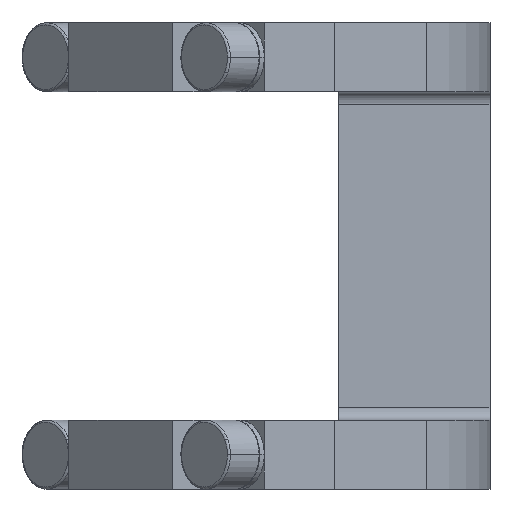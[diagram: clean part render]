
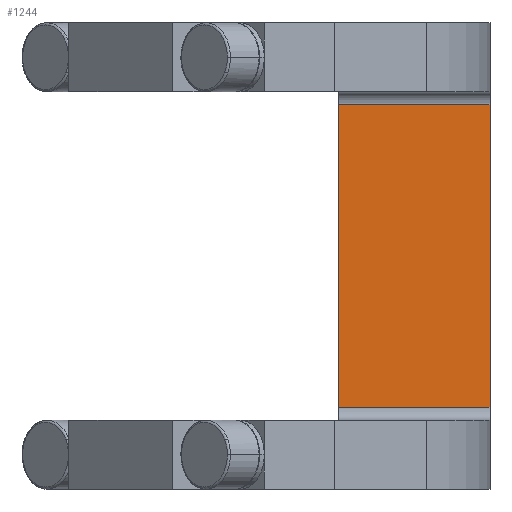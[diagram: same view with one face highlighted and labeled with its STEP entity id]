
A CAD part, front view. The second image highlights one B-rep face of the part: STEP entity #1244.
In plain terms, the highlighted planar face has unit normal (0, -1, 0).
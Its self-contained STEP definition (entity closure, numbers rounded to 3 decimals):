
#431=CARTESIAN_POINT('Vertex',(60.,115.,35.)) ;
#434=CARTESIAN_POINT('Line Origine',(60.,115.,0.)) ;
#438=CARTESIAN_POINT('Vertex',(60.,115.,-35.)) ;
#710=CARTESIAN_POINT('Vertex',(25.,115.,-35.)) ;
#713=CARTESIAN_POINT('Line Origine',(25.,115.,0.)) ;
#717=CARTESIAN_POINT('Vertex',(25.,115.,35.)) ;
#918=CARTESIAN_POINT('Line Origine',(5.,115.,35.)) ;
#1221=CARTESIAN_POINT('Line Origine',(5.,115.,-35.)) ;
#1233=CARTESIAN_POINT('Axis2P3D Location',(60.,115.,35.)) ;
#435=DIRECTION('Vector Direction',(0.,0.,-1.)) ;
#714=DIRECTION('Vector Direction',(0.,0.,-1.)) ;
#919=DIRECTION('Vector Direction',(1.,0.,0.)) ;
#1222=DIRECTION('Vector Direction',(1.,0.,0.)) ;
#1234=DIRECTION('Axis2P3D Direction',(0.,1.,0.)) ;
#1235=DIRECTION('Axis2P3D XDirection',(0.,0.,-1.)) ;
#1236=AXIS2_PLACEMENT_3D('Plane Axis2P3D',#1233,#1234,#1235) ;
#1239=ORIENTED_EDGE('',*,*,#719,.T.) ;
#1240=ORIENTED_EDGE('',*,*,#1225,.F.) ;
#1241=ORIENTED_EDGE('',*,*,#440,.F.) ;
#1242=ORIENTED_EDGE('',*,*,#922,.T.) ;
#436=VECTOR('Line Direction',#435,1.) ;
#715=VECTOR('Line Direction',#714,1.) ;
#920=VECTOR('Line Direction',#919,1.) ;
#1223=VECTOR('Line Direction',#1222,1.) ;
#1244=ADVANCED_FACE('Brep With Voids',(#1243),#1237,.F.) ;
#440=EDGE_CURVE('',#432,#439,#437,.T.) ;
#719=EDGE_CURVE('',#718,#711,#716,.T.) ;
#922=EDGE_CURVE('',#432,#718,#921,.F.) ;
#1225=EDGE_CURVE('',#439,#711,#1224,.F.) ;
#1238=EDGE_LOOP('',(#1239,#1240,#1241,#1242)) ;
#1243=FACE_OUTER_BOUND('',#1238,.T.) ;
#437=LINE('Line',#434,#436) ;
#716=LINE('Line',#713,#715) ;
#921=LINE('Line',#918,#920) ;
#1224=LINE('Line',#1221,#1223) ;
#1237=PLANE('Plane',#1236) ;
#432=VERTEX_POINT('',#431) ;
#439=VERTEX_POINT('',#438) ;
#711=VERTEX_POINT('',#710) ;
#718=VERTEX_POINT('',#717) ;
